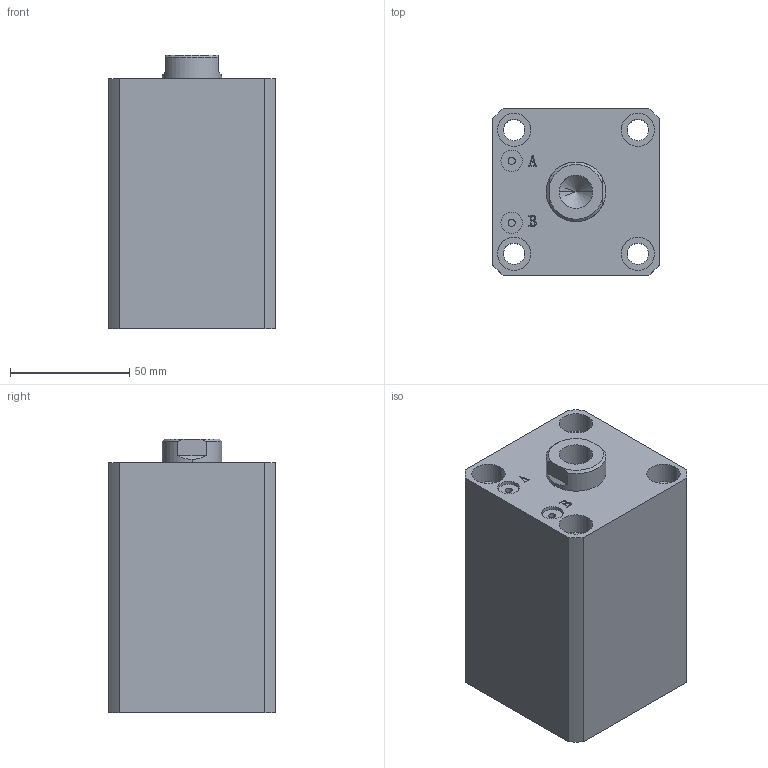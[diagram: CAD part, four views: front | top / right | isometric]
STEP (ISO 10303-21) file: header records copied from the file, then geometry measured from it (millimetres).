
FILE_DESCRIPTION (( 'STEP AP203' ), '1' );
FILE_NAME ('HTB-SDMA40-50N.STEP', '2019-10-07T11:53:49', ( '微软用户' ), ( '微软中国' ), 'SwSTEP 2.0', 'SolidWorks 2012', '' );
FILE_SCHEMA (( 'CONFIG_CONTROL_DESIGN' ));
Length unit declared in the file: millimetre
Products named in the file (3): HTB-SDMA40-50N; HTB-SDMA40-50N活塞杆; HTB-SDMA40-50掛极
Assembly tree (2 placements, depth 2):
  HTB-SDMA40-50N
    HTB-SDMA40-50掛极
    HTB-SDMA40-50N活塞杆
Bounding box: 70 x 70 x 115 mm (x, y, z)
Volume: 439614 mm3; surface area: 75721.1 mm2
Topology: 2 solids, 2 shells, 137 faces, 331 edges, 217 vertices
Faces by surface type: plane 65, cylinder 46, bspline 16, torus 6, cone 4
Entity records: 5074 total; most frequent: CARTESIAN_POINT 1580, ORIENTED_EDGE 658, DIRECTION 647, EDGE_CURVE 329, AXIS2_PLACEMENT_3D 232, VERTEX_POINT 217, LINE 183, VECTOR 183
